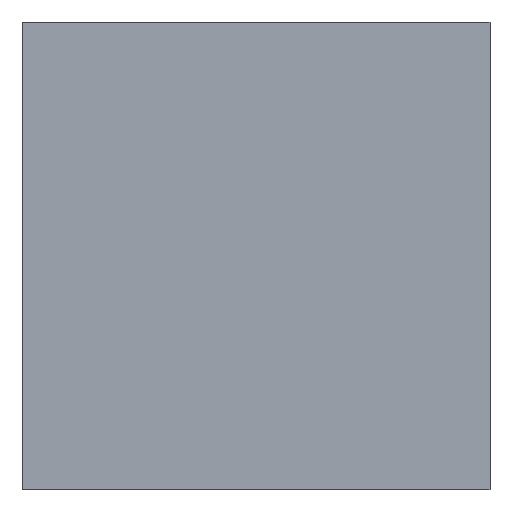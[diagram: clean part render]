
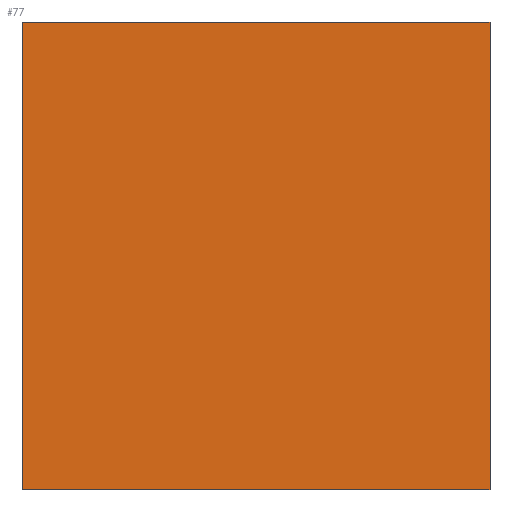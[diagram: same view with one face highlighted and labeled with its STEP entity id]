
A CAD part, front view. The second image highlights one B-rep face of the part: STEP entity #77.
In plain terms, the highlighted planar face has unit normal (0, -1, 0).
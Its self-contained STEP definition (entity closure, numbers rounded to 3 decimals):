
#77=ADVANCED_FACE('',(#111),#371,.T.);
#111=FACE_OUTER_BOUND('',#165,.F.);
#165=EDGE_LOOP('',(#242,#243,#244,#245));
#242=ORIENTED_EDGE('',*,*,#463,.F.);
#243=ORIENTED_EDGE('',*,*,#471,.F.);
#244=ORIENTED_EDGE('',*,*,#467,.T.);
#245=ORIENTED_EDGE('',*,*,#470,.T.);
#371=PLANE('',#697);
#463=EDGE_CURVE('',#609,#611,#519,.T.);
#467=EDGE_CURVE('',#652,#607,#523,.T.);
#470=EDGE_CURVE('',#607,#611,#526,.T.);
#471=EDGE_CURVE('',#652,#609,#527,.T.);
#519=LINE('',#1021,#567);
#523=LINE('',#1025,#571);
#526=LINE('',#1028,#574);
#527=LINE('',#1029,#575);
#567=VECTOR('',#802,5.);
#571=VECTOR('',#806,5.);
#574=VECTOR('',#809,5.);
#575=VECTOR('',#810,5.);
#607=VERTEX_POINT('',#929);
#609=VERTEX_POINT('',#931);
#611=VERTEX_POINT('',#933);
#652=VERTEX_POINT('',#974);
#697=AXIS2_PLACEMENT_3D('',#1065,#859,#860);
#802=DIRECTION('',(0.,0.,1.));
#806=DIRECTION('',(0.,0.,1.));
#809=DIRECTION('',(1.,0.,0.));
#810=DIRECTION('',(1.,0.,0.));
#859=DIRECTION('',(0.,-1.,0.));
#860=DIRECTION('',(0.,0.,1.));
#929=CARTESIAN_POINT('',(-0.4,-16.9,-100.699));
#931=CARTESIAN_POINT('',(4.6,-16.9,-105.699));
#933=CARTESIAN_POINT('',(4.6,-16.9,-100.699));
#974=CARTESIAN_POINT('',(-0.4,-16.9,-105.699));
#1021=CARTESIAN_POINT('',(4.6,-16.9,-105.699));
#1025=CARTESIAN_POINT('',(-0.4,-16.9,-105.699));
#1028=CARTESIAN_POINT('',(-0.4,-16.9,-100.699));
#1029=CARTESIAN_POINT('',(-0.4,-16.9,-105.699));
#1065=CARTESIAN_POINT('',(4.65,-16.9,-105.749));
